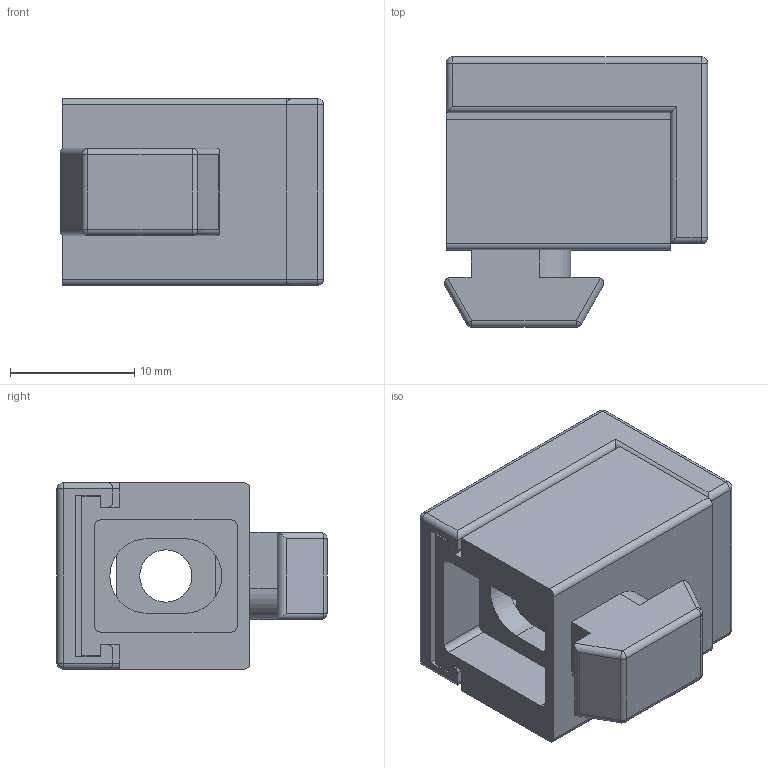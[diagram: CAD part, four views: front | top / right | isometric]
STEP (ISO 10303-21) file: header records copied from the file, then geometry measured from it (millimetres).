
FILE_DESCRIPTION (( 'STEP AP203' ), '1' );
FILE_NAME ('411069_Multiblock Nut 8 M5 2-teilig.step', '2022-06-07T08:34:20', ( '' ), ( '' ), 'SwSTEP 2.0', 'SolidWorks 2021', '' );
FILE_SCHEMA (( 'CONFIG_CONTROL_DESIGN' ));
Length unit declared in the file: millimetre
Products named in the file (4): 411069 Multiblock Nut8 M5-Block; 411069 Multiblock Nut8 M5-Vierkantmutter; 411069 Multiblock Nut8 M5-Deckel; 411069_Multiblock Nut 8 M5 2-teilig
Assembly tree (3 placements, depth 2):
  411069_Multiblock Nut 8 M5 2-teilig
    411069 Multiblock Nut8 M5-Block
    411069 Multiblock Nut8 M5-Deckel
    411069 Multiblock Nut8 M5-Vierkantmutter
Bounding box: 21.14 x 21.7 x 15 mm (x, y, z)
Volume: 3506.3 mm3; surface area: 4069.6 mm2
Topology: 3 solids, 3 shells, 129 faces, 328 edges, 200 vertices
Faces by surface type: plane 71, cylinder 48, sphere 10
Entity records: 4194 total; most frequent: CARTESIAN_POINT 683, DIRECTION 658, ORIENTED_EDGE 636, EDGE_CURVE 318, LINE 228, VECTOR 228, AXIS2_PLACEMENT_3D 215, VERTEX_POINT 200
